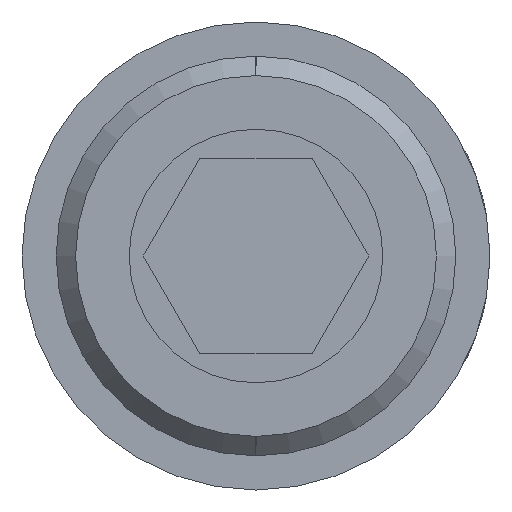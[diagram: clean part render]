
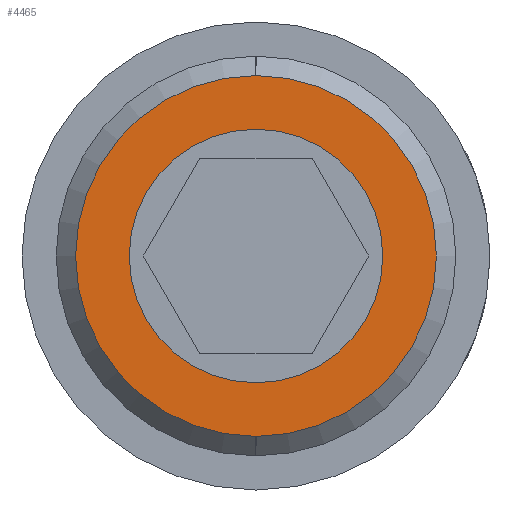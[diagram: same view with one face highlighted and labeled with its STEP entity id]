
A CAD part, front view. The second image highlights one B-rep face of the part: STEP entity #4465.
In plain terms, the highlighted planar face has unit normal (0, -1, 0).
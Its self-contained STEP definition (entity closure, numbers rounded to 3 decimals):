
#513=FACE_BOUND('',#924,.T.);
#520=PLANE('',#5026);
#684=FACE_OUTER_BOUND('',#923,.T.);
#923=EDGE_LOOP('',(#3973));
#924=EDGE_LOOP('',(#3974));
#1611=CIRCLE('',#5027,234.95);
#1612=CIRCLE('',#5028,165.1);
#2393=VERTEX_POINT('',#79746);
#2394=VERTEX_POINT('',#79748);
#3183=EDGE_CURVE('',#2393,#2393,#1611,.T.);
#3184=EDGE_CURVE('',#2394,#2394,#1612,.T.);
#3973=ORIENTED_EDGE('',*,*,#3183,.T.);
#3974=ORIENTED_EDGE('',*,*,#3184,.T.);
#4465=ADVANCED_FACE('',(#684,#513),#520,.T.);
#5026=AXIS2_PLACEMENT_3D('',#79745,#5764,#5765);
#5027=AXIS2_PLACEMENT_3D('',#79747,#5766,#5767);
#5028=AXIS2_PLACEMENT_3D('',#79749,#5768,#5769);
#5764=DIRECTION('center_axis',(0.,-1.,0.));
#5765=DIRECTION('ref_axis',(0.,0.,-1.));
#5766=DIRECTION('center_axis',(0.,-1.,0.));
#5767=DIRECTION('ref_axis',(0.,0.,1.));
#5768=DIRECTION('center_axis',(0.,1.,0.));
#5769=DIRECTION('ref_axis',(0.,0.,
1.));
#79745=CARTESIAN_POINT('Origin',(-237.769,-3556.,0.));
#79746=CARTESIAN_POINT('',(0.,-3556.,-234.95));
#79747=CARTESIAN_POINT('Origin',(0.,-3556.,0.));
#79748=CARTESIAN_POINT('',(0.,-3556.,-165.1));
#79749=CARTESIAN_POINT('Origin',(0.,-3556.,0.));
